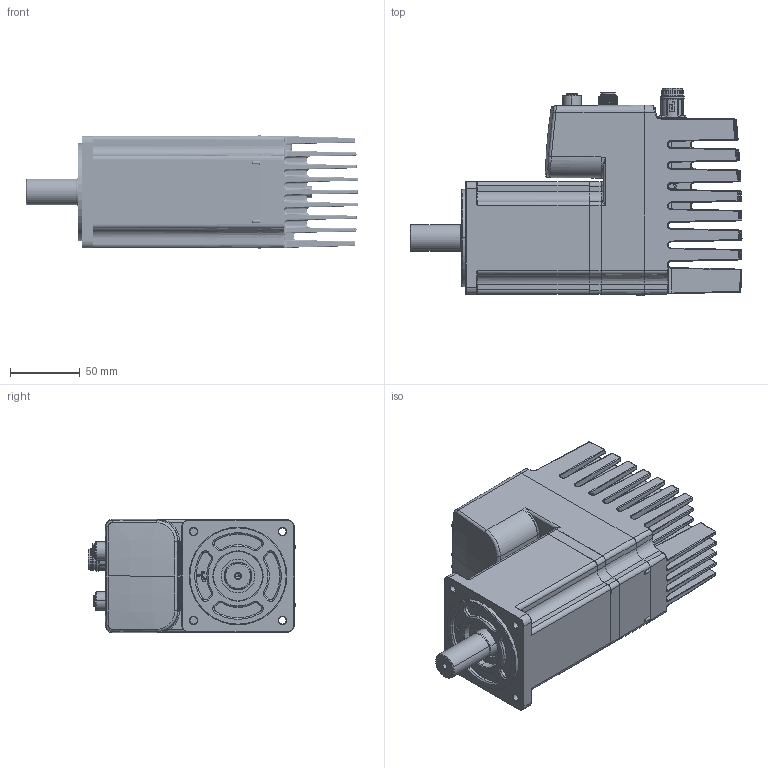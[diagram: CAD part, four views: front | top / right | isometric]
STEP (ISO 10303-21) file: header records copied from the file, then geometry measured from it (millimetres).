
FILE_DESCRIPTION((''),'2;1');
FILE_NAME('STEPPERASSY_ASM','2022-08-21T13:41:41',('Administrator'),(''),'CREO PARAMETRIC BY PTC INC, 2022014','CREO PARAMETRIC BY PTC INC, 2022014','');
FILE_SCHEMA(('AUTOMOTIVE_DESIGN { 1 0 10303 214 1 1 1 1 }'));
Products named in the file (9): MAC1004_NEW; MAC804_RFIN_002_3D; MS0542_MAC804; MAC804_CON2; MAC802_XD10; MAC802_XG1; MAC802_XG0; MAC800_ASM_ASM; STEPPERASSY_ASM
Assembly tree (9 placements, depth 3):
  STEPPERASSY_ASM
    MAC800_ASM_ASM
      MAC1004_NEW
      MAC804_RFIN_002_3D
      MS0542_MAC804
      MAC804_CON2
      MAC802_XD10
      MAC802_XG1  x2
      MAC802_XG0
Bounding box: 238 x 148.51 x 81.04 mm (x, y, z)
Volume: 1354242 mm3; surface area: 219596.6 mm2
Topology: 11 solids, 21 shells, 6127 faces, 15875 edges, 9783 vertices
Faces by surface type: plane 2033, cylinder 1403, bspline 1177, extrusion 940, torus 332, cone 204, sphere 38
Entity records: 346278 total; most frequent: CARTESIAN_POINT 158881, ORIENTED_EDGE 30606, DIRECTION 22642, EDGE_CURVE 15303, PRESENTATION_STYLE_ASSIGNMENT 10087, STYLED_ITEM 9946, VERTEX_POINT 9614, VECTOR 7968
